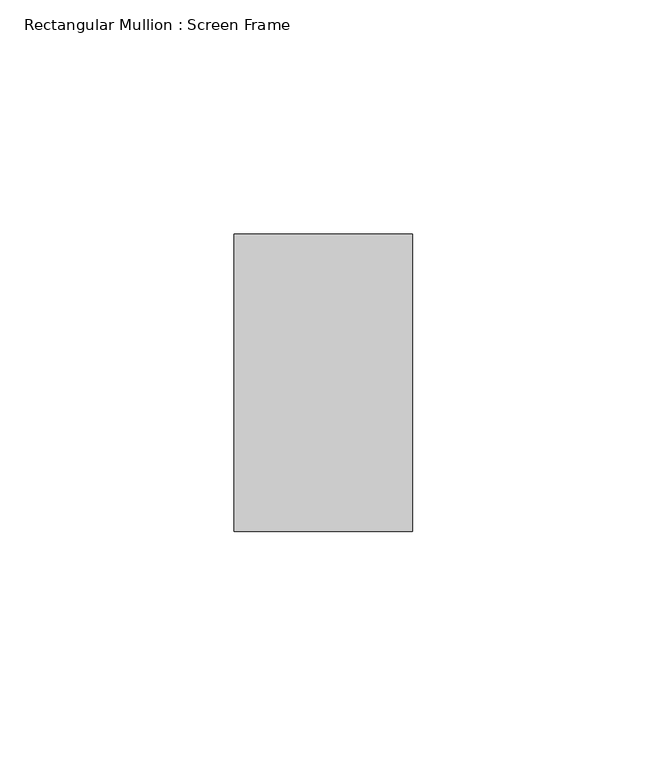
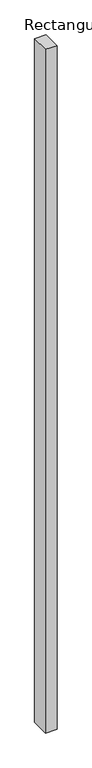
"""IFC4 building model written with IfcOpenShell, lengths in millimetres: member geometry, Rectangular Mullion : Screen Frame."""

from ifc_helpers import new_model, si_unit, frame, origin, place, context, project, spatial, polyline, outline, extrude, source, transform, mapped, element, save


def rectangular_mullion_screen_frame_f5a31ed0(model_context):
    return source(origin(), model_context, "Body", "SweptSolid", [
        extrude(outline(polyline([(0.0, 31.75), (0.0, -31.75), (-38.1, -31.75), (-38.1, 31.75), (0.0, 31.75)])), frame((0.0, 0.0, -2434.7932), z_axis=(0.0, 0.0, 1.0), x_axis=(1.0, 0.0, 0.0)), (0.0, 0.0, 1.0), 2434.7932),
    ])


if __name__ == "__main__":
    model = new_model("IFC4")
    model_context = context("Model", 3, world=origin())
    ifc_project = project(units=[si_unit("LENGTHUNIT", "METRE", prefix="MILLI")], contexts=[model_context])
    site = spatial("IfcSite", under=ifc_project)
    building = spatial("IfcBuilding", under=site)
    placement = place(None, origin())
    rectangular_mullion_screen_frame_shape = rectangular_mullion_screen_frame_f5a31ed0(model_context)
    element("IfcMember", 1, ObjectType="Rectangular Mullion : Screen Frame", at=placement, inside=building, context=model_context, shape_type="MappedRepresentation", body=[
        mapped(rectangular_mullion_screen_frame_shape, transform((0.0, 0.0, 0.0), x_axis=(1.0, 0.0, 0.0), y_axis=(0.0, 1.0, 0.0), z_axis=(0.0, 0.0, 1.0))),
    ])
    save(model, "model.ifc")
